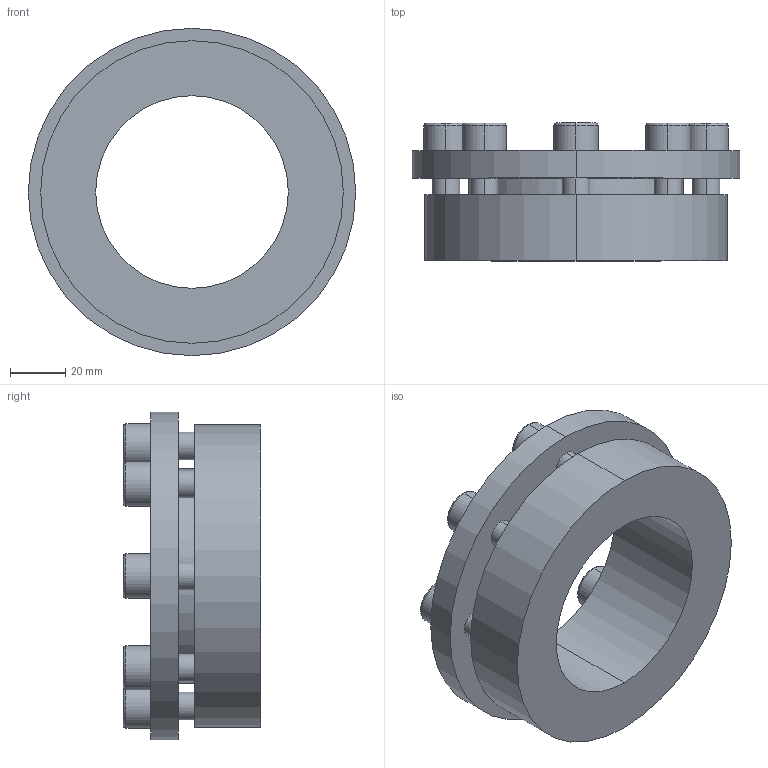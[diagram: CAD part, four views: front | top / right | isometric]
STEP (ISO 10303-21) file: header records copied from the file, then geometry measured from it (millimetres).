
FILE_DESCRIPTION (( 'STEP AP203' ), '1' );
FILE_NAME ('PL-H6 70-110.STEP', '2021-10-23T01:37:40', ( '' ), ( '' ), 'SwSTEP 2.0', 'SolidWorks 2018', '' );
FILE_SCHEMA (( 'CONFIG_CONTROL_DESIGN' ));
Length unit declared in the file: millimetre
Products named in the file (1): PL-H6 70-110
Bounding box: 119 x 50 x 119 mm (x, y, z)
Volume: 231585.9 mm3; surface area: 51501 mm2
Topology: 1 solids, 1 shells, 124 faces, 296 edges, 192 vertices
Faces by surface type: plane 68, cylinder 40, torus 16
Entity records: 3717 total; most frequent: DIRECTION 658, CARTESIAN_POINT 613, ORIENTED_EDGE 592, EDGE_CURVE 296, AXIS2_PLACEMENT_3D 237, VERTEX_POINT 192, VECTOR 184, LINE 184
